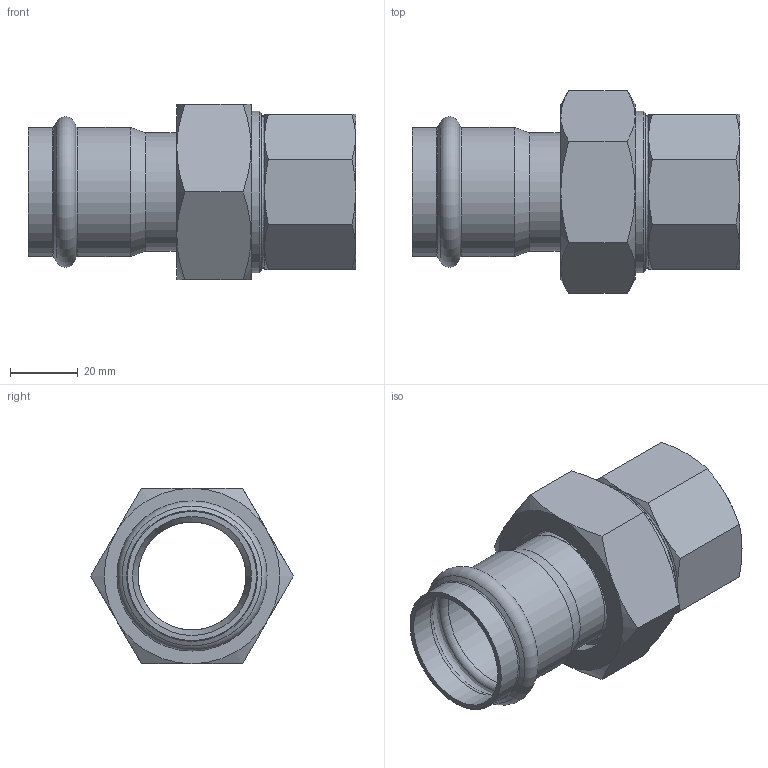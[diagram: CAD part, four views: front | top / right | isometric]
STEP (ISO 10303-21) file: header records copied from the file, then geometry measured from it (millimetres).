
FILE_DESCRIPTION((''),'2;1');
FILE_NAME('G:\Nirosan-Schmiedefeld\Technics\CAD\Bauteile VA\035\69330gmva35114(3).stp','2011-05-24T13:09:00',('herberg'),(''),'Autodesk Inventor 2009','Autodesk Inventor 2009','');
FILE_SCHEMA(('AUTOMOTIVE_DESIGN { 1 0 10303 214 1 1 1 1 }'));
Length unit declared in the file: millimetre
Products named in the file (7): 69330gmva35114(3); 69359m35112(2); HM_6924335(1); R35112(1); SM35112(3); FD_4432_EPDM(0); 69370G112114(1)
Assembly tree (6 placements, depth 3):
  69330gmva35114(3)
    69359m35112(2)
      HM_6924335(1)
      R35112(1)
      SM35112(3)
      FD_4432_EPDM(0)
    69370G112114(1)
Bounding box: 97 x 60.04 x 52 mm (x, y, z)
Volume: 58614.6 mm3; surface area: 38358.7 mm2
Topology: 5 solids, 5 shells, 88 faces, 176 edges, 102 vertices
Faces by surface type: cone 36, plane 26, cylinder 12, bspline 11, torus 3
Full cylindrical faces by diameter (mm): 32 x3, 35 x2, 35.25 x2, 38.25 x2, 43 x1, 44 x1, 47.803 x1
Entity records: 2566 total; most frequent: CARTESIAN_POINT 821, DIRECTION 338, ORIENTED_EDGE 284, AXIS2_PLACEMENT_3D 162, EDGE_CURVE 142, EDGE_LOOP 134, VERTEX_POINT 100, FACE_OUTER_BOUND 88
